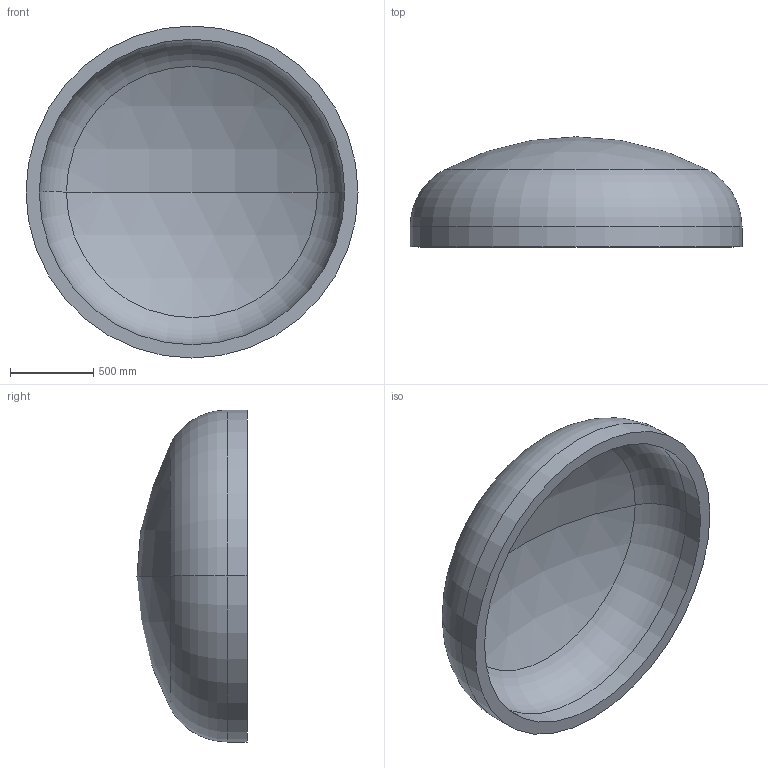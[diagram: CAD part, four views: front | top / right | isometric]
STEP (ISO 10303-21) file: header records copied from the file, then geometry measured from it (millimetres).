
FILE_DESCRIPTION (( 'STEP AP203' ), '1' );
FILE_NAME ('DIN 28013 Korbbogenform_-_Boden DIN 28013 - 2000 x 120 - I - s=80.step', '2016-07-01T14:04:23', ( '' ), ( '' ), 'SwSTEP 2.0', 'SolidWorks 2013', '' );
FILE_SCHEMA (( 'CONFIG_CONTROL_DESIGN' ));
Length unit declared in the file: millimetre
Products named in the file (1): DIN 28013 Korbbogenform_-_Boden DIN 28013 - 2000 x 120 - I - s=80
Bounding box: 2000 x 663.34 x 2000 mm (x, y, z)
Volume: 388845324.9 mm3; surface area: 10217083.2 mm2
Topology: 1 solids, 1 shells, 13 faces, 24 edges, 14 vertices
Faces by surface type: torus 4, cylinder 4, sphere 4, plane 1
Entity records: 407 total; most frequent: DIRECTION 72, CARTESIAN_POINT 52, ORIENTED_EDGE 48, AXIS2_PLACEMENT_3D 34, EDGE_CURVE 24, CIRCLE 20, EDGE_LOOP 14, VERTEX_POINT 14
